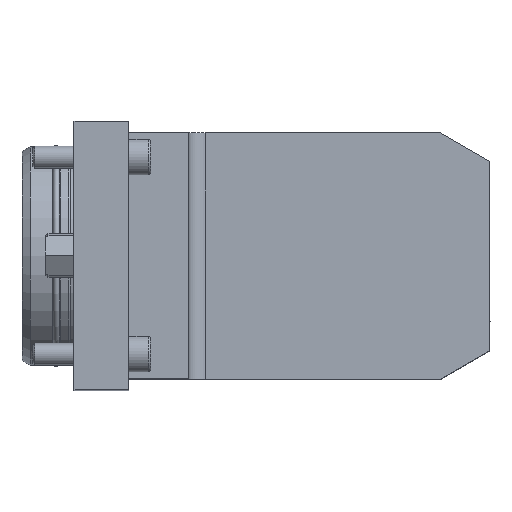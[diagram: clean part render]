
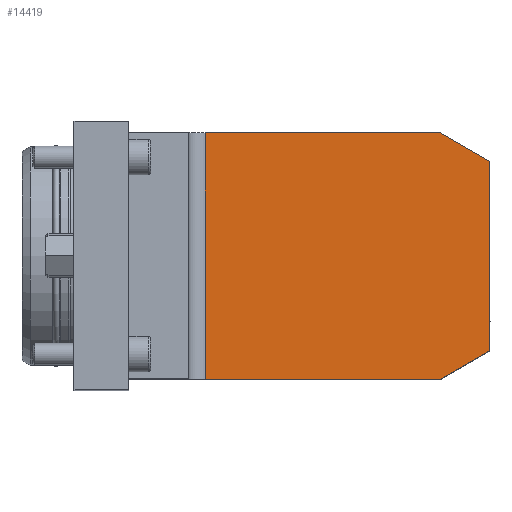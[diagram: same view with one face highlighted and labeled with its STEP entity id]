
A CAD part, top view. The second image highlights one B-rep face of the part: STEP entity #14419.
In plain terms, the highlighted planar face has unit normal (0, 0, 1) as drawn and (-1, 0, 0) by its records, which use the part's own axes.
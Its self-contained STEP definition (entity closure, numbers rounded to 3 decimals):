
#3678=VECTOR('',#11211,1.);
#3685=VECTOR('',#11228,1.);
#3689=VECTOR('',#11236,1.);
#3700=VECTOR('',#11265,1.);
#3702=VECTOR('',#11273,1.);
#3703=VECTOR('',#11276,1.);
#3966=LINE('',#13335,#3678);
#3973=LINE('',#13356,#3685);
#3977=LINE('',#13366,#3689);
#3988=LINE('',#13392,#3700);
#3990=LINE('',#13398,#3702);
#3991=LINE('',#13400,#3703);
#5108=ORIENTED_EDGE('',*,*,#6381,.T.);
#5109=ORIENTED_EDGE('',*,*,#6392,.F.);
#5110=ORIENTED_EDGE('',*,*,#6397,.F.);
#5111=ORIENTED_EDGE('',*,*,#6414,.F.);
#5112=ORIENTED_EDGE('',*,*,#6410,.F.);
#5113=ORIENTED_EDGE('',*,*,#6413,.F.);
#5844=VERTEX_POINT('',#13332);
#5845=VERTEX_POINT('',#13334);
#5854=VERTEX_POINT('',#13354);
#5858=VERTEX_POINT('',#13364);
#5863=VERTEX_POINT('',#13389);
#5864=VERTEX_POINT('',#13391);
#6381=EDGE_CURVE('',#5845,#5844,#3966,.T.);
#6392=EDGE_CURVE('',#5854,#5844,#3973,.T.);
#6397=EDGE_CURVE('',#5858,#5854,#3977,.T.);
#6410=EDGE_CURVE('',#5863,#5864,#3988,.T.);
#6413=EDGE_CURVE('',#5845,#5863,#3990,.T.);
#6414=EDGE_CURVE('',#5864,#5858,#3991,.T.);
#6840=EDGE_LOOP('',(#5108,#5109,#5110,#5111,#5112,#5113));
#7281=FACE_BOUND('',#6840,.T.);
#7497=PLANE('',#14057);
#11211=DIRECTION('',(0.,0.,69.215));
#11228=DIRECTION('',(0.,-18.,-10.392));
#11236=DIRECTION('',(0.,-86.,0.));
#11265=DIRECTION('',(0.,86.,0.));
#11273=DIRECTION('',(0.,18.,-10.392));
#11274=DIRECTION('',(-1.,0.,0.));
#11275=DIRECTION('',(0.,1.,0.));
#11276=DIRECTION('',(0.,0.,90.));
#13332=CARTESIAN_POINT('',(5.,-112.,34.608));
#13334=CARTESIAN_POINT('',(5.,-112.,-34.608));
#13335=CARTESIAN_POINT('',(5.,-112.,-34.608));
#13354=CARTESIAN_POINT('',(5.,-94.,45.));
#13356=CARTESIAN_POINT('',(5.,-94.,45.));
#13364=CARTESIAN_POINT('',(5.,-8.,45.));
#13366=CARTESIAN_POINT('',(5.,-8.,45.));
#13389=CARTESIAN_POINT('',(5.,-94.,-45.));
#13391=CARTESIAN_POINT('',(5.,-8.,-45.));
#13392=CARTESIAN_POINT('',(5.,-94.,-45.));
#13398=CARTESIAN_POINT('',(5.,-112.,-34.608));
#13399=CARTESIAN_POINT('',(5.,-112.,-34.608));
#13400=CARTESIAN_POINT('',(5.,-8.,-45.));
#14057=AXIS2_PLACEMENT_3D('',#13399,#11274,#11275);
#14419=ADVANCED_FACE('',(#7281),#7497,.T.);
